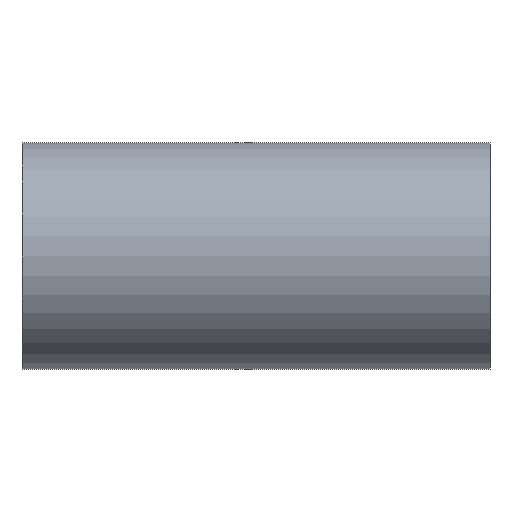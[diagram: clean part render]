
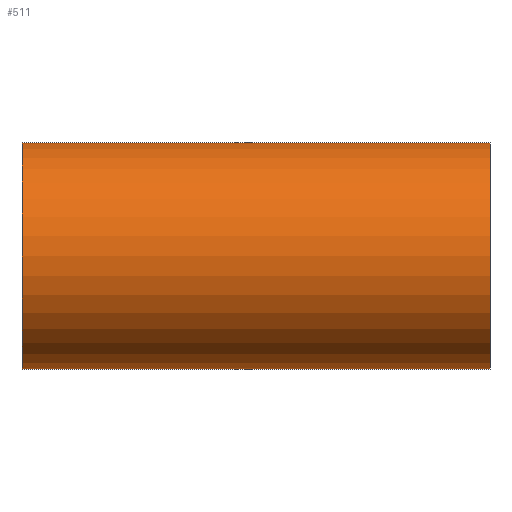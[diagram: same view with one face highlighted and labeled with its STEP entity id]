
A CAD part, front view. The second image highlights one B-rep face of the part: STEP entity #511.
In plain terms, the highlighted cylindrical face has radius 50.8 mm (diameter 101.6 mm), a partial arc.
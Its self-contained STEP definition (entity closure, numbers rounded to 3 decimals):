
#19 = CIRCLE ( 'NONE', #174, 50.8 ) ;
#32 = VECTOR ( 'NONE', #229, 1000. ) ;
#54 = EDGE_LOOP ( 'NONE', ( #212, #341, #225, #180 ) ) ;
#64 = VERTEX_POINT ( 'NONE', #493 ) ;
#66 = EDGE_CURVE ( 'NONE', #257, #524, #432, .T. ) ;
#69 = CARTESIAN_POINT ( 'NONE',  ( -104.8, 0., 0. ) ) ;
#71 = DIRECTION ( 'NONE',  ( 1., 0., 0. ) ) ;
#72 = DIRECTION ( 'NONE',  ( 0., 0., -1. ) ) ;
#99 = EDGE_CURVE ( 'NONE', #64, #257, #208, .T. ) ;
#100 = CARTESIAN_POINT ( 'NONE',  ( 104.8, 0., 50.8 ) ) ;
#132 = DIRECTION ( 'NONE',  ( 0., 0., -1. ) ) ;
#174 = AXIS2_PLACEMENT_3D ( 'NONE', #299, #331, #328 ) ;
#180 = ORIENTED_EDGE ( 'NONE', *, *, #401, .T. ) ;
#197 = VERTEX_POINT ( 'NONE', #100 ) ;
#199 = CARTESIAN_POINT ( 'NONE',  ( -104.8, 0., 50.8 ) ) ;
#208 = CIRCLE ( 'NONE', #399, 50.8 ) ;
#212 = ORIENTED_EDGE ( 'NONE', *, *, #226, .F. ) ;
#220 = CARTESIAN_POINT ( 'NONE',  ( -104.8, 0., -50.8 ) ) ;
#221 = LINE ( 'NONE', #199, #32 ) ;
#225 = ORIENTED_EDGE ( 'NONE', *, *, #66, .T. ) ;
#226 = EDGE_CURVE ( 'NONE', #64, #197, #221, .T. ) ;
#229 = DIRECTION ( 'NONE',  ( 1., 0., 0. ) ) ;
#257 = VERTEX_POINT ( 'NONE', #220 ) ;
#267 = CYLINDRICAL_SURFACE ( 'NONE', #474, 50.8 ) ;
#299 = CARTESIAN_POINT ( 'NONE',  ( 104.8, 0., 0. ) ) ;
#316 = CARTESIAN_POINT ( 'NONE',  ( 104.8, 0., -50.8 ) ) ;
#328 = DIRECTION ( 'NONE',  ( 0., 0., -1. ) ) ;
#331 = DIRECTION ( 'NONE',  ( -1., 0., 0. ) ) ;
#341 = ORIENTED_EDGE ( 'NONE', *, *, #99, .T. ) ;
#358 = CARTESIAN_POINT ( 'NONE',  ( -104.8, 0., 0. ) ) ;
#362 = DIRECTION ( 'NONE',  ( 1., 0., 0. ) ) ;
#395 = FACE_OUTER_BOUND ( 'NONE', #54, .T. ) ;
#399 = AXIS2_PLACEMENT_3D ( 'NONE', #69, #71, #72 ) ;
#401 = EDGE_CURVE ( 'NONE', #524, #197, #19, .T. ) ;
#417 = VECTOR ( 'NONE', #442, 1000. ) ;
#432 = LINE ( 'NONE', #526, #417 ) ;
#442 = DIRECTION ( 'NONE',  ( 1., 0., 0. ) ) ;
#474 = AXIS2_PLACEMENT_3D ( 'NONE', #358, #362, #132 ) ;
#493 = CARTESIAN_POINT ( 'NONE',  ( -104.8, 0., 50.8 ) ) ;
#511 = ADVANCED_FACE ( 'NONE', ( #395 ), #267, .T. ) ;
#524 = VERTEX_POINT ( 'NONE', #316 ) ;
#526 = CARTESIAN_POINT ( 'NONE',  ( -104.8, 0., -50.8 ) ) ;
